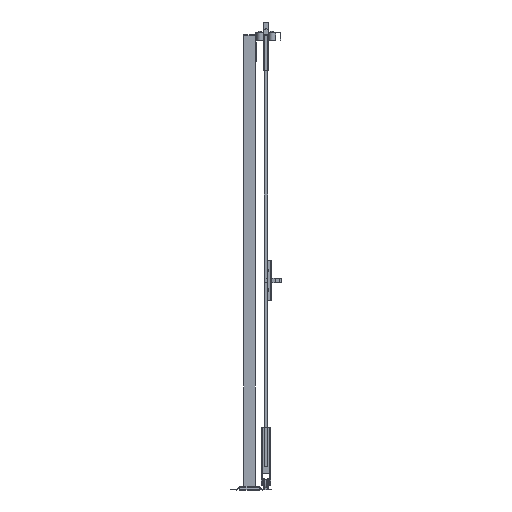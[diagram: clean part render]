
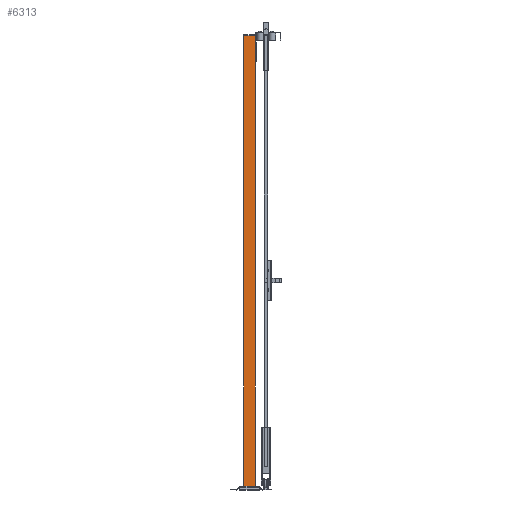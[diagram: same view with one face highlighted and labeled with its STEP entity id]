
A CAD part, left-side view. The second image highlights one B-rep face of the part: STEP entity #6313.
In plain terms, the highlighted planar face has unit normal (-1, 0, 0) as drawn and (0, 1, 0) by its records, which use the part's own axes.
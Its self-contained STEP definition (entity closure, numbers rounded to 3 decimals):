
#663=FACE_OUTER_BOUND('',#1115,.T.);
#1115=EDGE_LOOP('',(#3893,#3894,#3895,#3896));
#1632=VERTEX_POINT('',#12740);
#1633=VERTEX_POINT('',#12742);
#1635=VERTEX_POINT('',#12748);
#1638=VERTEX_POINT('',#12753);
#2556=EDGE_CURVE('',#1632,#1633,#7264,.T.);
#2562=EDGE_CURVE('',#1638,#1635,#7270,.T.);
#2565=EDGE_CURVE('',#1633,#1638,#7273,.T.);
#2566=EDGE_CURVE('',#1632,#1635,#7274,.T.);
#3893=ORIENTED_EDGE('',*,*,#2566,.T.);
#3894=ORIENTED_EDGE('',*,*,#2562,.F.);
#3895=ORIENTED_EDGE('',*,*,#2565,.F.);
#3896=ORIENTED_EDGE('',*,*,#2556,.F.);
#5925=PLANE('',#9166);
#6313=ADVANCED_FACE('',(#663),#5925,.F.);
#7264=LINE('',#12743,#8277);
#7270=LINE('',#12755,#8283);
#7273=LINE('',#12760,#8286);
#7274=LINE('',#12762,#8287);
#8277=VECTOR('',#10113,1.);
#8283=VECTOR('',#10121,1.);
#8286=VECTOR('',#10128,1.);
#8287=VECTOR('',#10131,1.);
#9166=AXIS2_PLACEMENT_3D('',#12761,#10129,#10130);
#10113=DIRECTION('',(-1.,0.,0.));
#10121=DIRECTION('',(1.,0.,0.));
#10128=DIRECTION('',(0.,0.,-1.));
#10129=DIRECTION('center_axis',(0.,-1.,0.));
#10130=DIRECTION('ref_axis',(0.,0.,-1.));
#10131=DIRECTION('',(0.,0.,-1.));
#12740=CARTESIAN_POINT('',(30.,30.,2320.));
#12742=CARTESIAN_POINT('',(-30.,30.,2320.));
#12743=CARTESIAN_POINT('',(0.,30.,2320.));
#12748=CARTESIAN_POINT('',(30.,30.,20.));
#12753=CARTESIAN_POINT('',(-30.,30.,20.));
#12755=CARTESIAN_POINT('',(0.,30.,20.));
#12760=CARTESIAN_POINT('',(-30.,30.,1170.));
#12761=CARTESIAN_POINT('Origin',(0.,30.,
1170.));
#12762=CARTESIAN_POINT('',(30.,30.,1170.));
